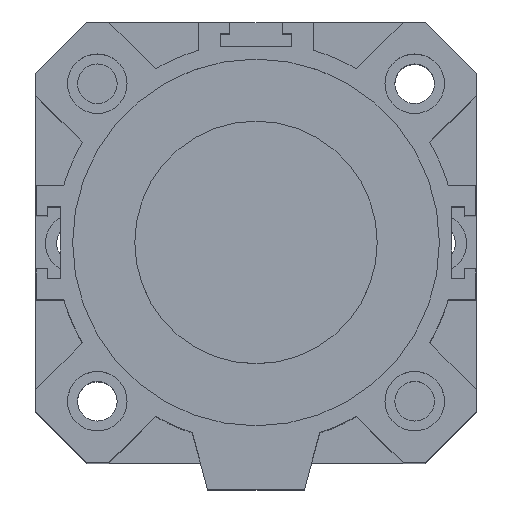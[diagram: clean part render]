
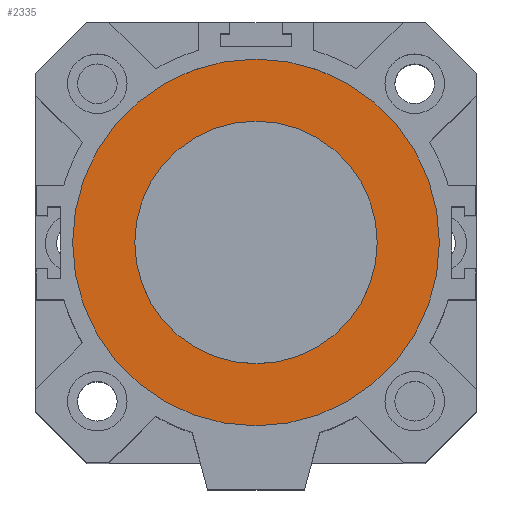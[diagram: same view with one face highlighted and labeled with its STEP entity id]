
A CAD part, top view. The second image highlights one B-rep face of the part: STEP entity #2335.
In plain terms, the highlighted planar face has unit normal (0, 0, 1).
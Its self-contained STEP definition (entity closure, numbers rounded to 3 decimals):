
#449=PLANE('',#2486);
#547=FACE_BOUND('',#766,.T.);
#548=FACE_BOUND('',#767,.T.);
#766=EDGE_LOOP('',(#1592));
#767=EDGE_LOOP('',(#1593));
#977=CIRCLE('',#2481,27.5);
#979=CIRCLE('',#2484,41.6);
#1065=VERTEX_POINT('',#3388);
#1067=VERTEX_POINT('',#3393);
#1287=EDGE_CURVE('',#1065,#1065,#977,.T.);
#1289=EDGE_CURVE('',#1067,#1067,#979,.T.);
#1592=ORIENTED_EDGE('',*,*,#1287,.F.);
#1593=ORIENTED_EDGE('',*,*,#1289,.F.);
#2335=ADVANCED_FACE('',(#547,#548),#449,.T.);
#2481=AXIS2_PLACEMENT_3D('',#3389,#2720,#2721);
#2484=AXIS2_PLACEMENT_3D('',#3394,#2726,#2727);
#2486=AXIS2_PLACEMENT_3D('',#3397,#2730,#2731);
#2720=DIRECTION('center_axis',(0.,0.,1.));
#2721=DIRECTION('ref_axis',(-1.,0.,0.));
#2726=DIRECTION('center_axis',(0.,0.,-1.));
#2727=DIRECTION('ref_axis',(-1.,0.,0.));
#2730=DIRECTION('center_axis',(0.,0.,1.));
#2731=DIRECTION('ref_axis',(1.,0.,0.));
#3388=CARTESIAN_POINT('',(27.5,0.,39.5));
#3389=CARTESIAN_POINT('Origin',(0.,0.,39.5));
#3393=CARTESIAN_POINT('',(41.6,0.,39.5));
#3394=CARTESIAN_POINT('Origin',(0.,0.,39.5));
#3397=CARTESIAN_POINT('Origin',(0.,0.,
39.5));
